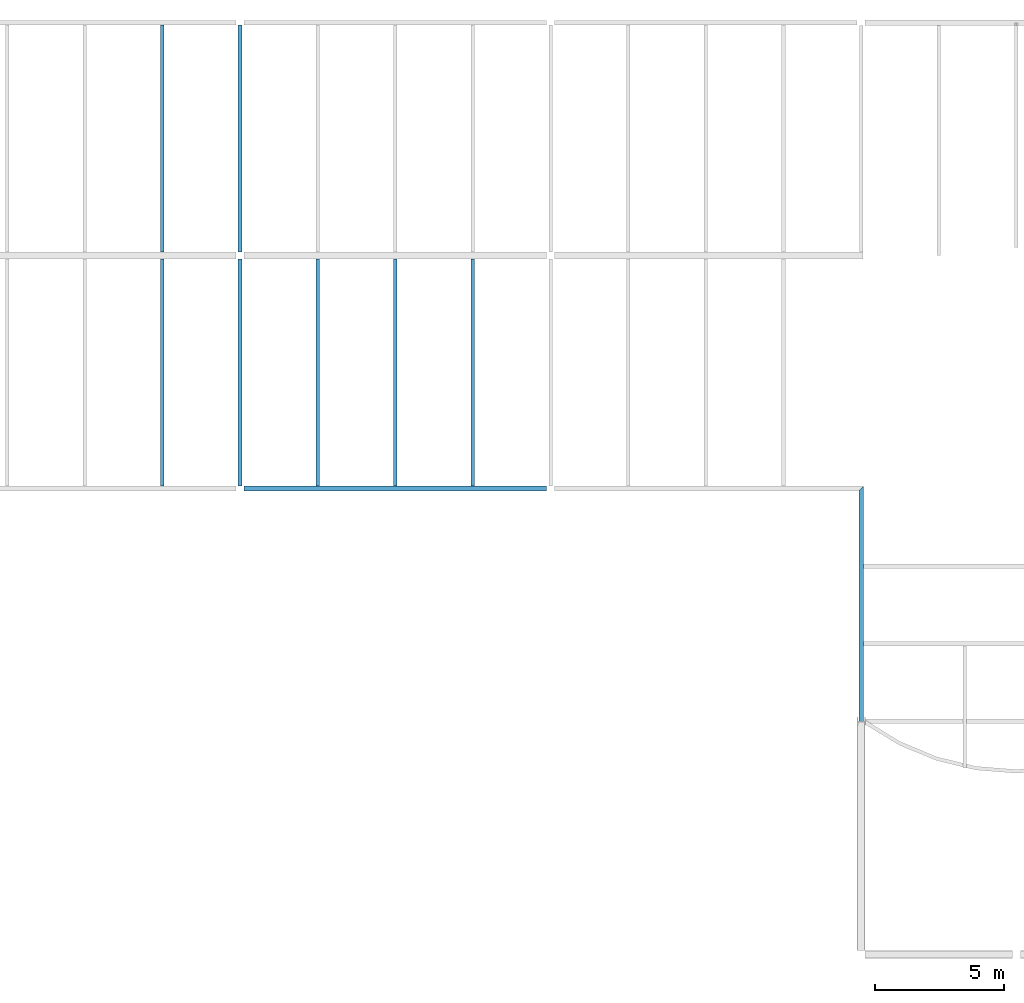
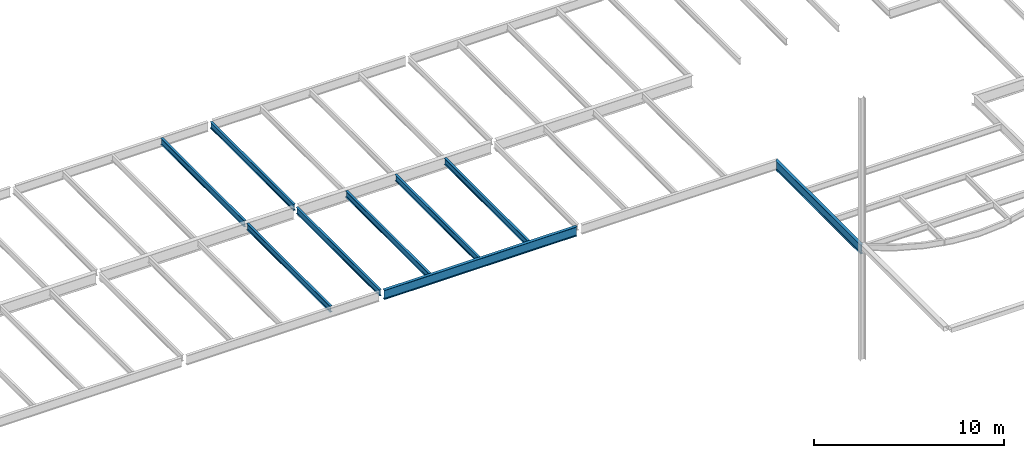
# One storey, part 5 of 21: 9 beams.
"""IFC2X3 building model written with IfcOpenShell, lengths in millimetres."""

from ifc_helpers import new_model, si_unit, origin, place, context, project, spatial, faceted_brep, material, element, save


model = new_model("IFC2X3")

# Units and contexts
context_of_model = context(None, 3, precision=1e-05, world=origin())
ifc_project = project(units=[si_unit("LENGTHUNIT", "METRE", prefix="MILLI")], contexts=[context_of_model])

# Building, storey
building = spatial("IfcBuilding", under=ifc_project, Name="Building", CompositionType="ELEMENT")
storey = spatial("IfcBuildingStorey", under=building, Name="FL6-FRM", CompositionType="ELEMENT")

# Beams
ifc_material_1 = material(Name="A992")
beam_1_placement = place(None, origin())
element("IfcBeam", 1, at=beam_1_placement, inside=storey, material=ifc_material_1, Name="B360", context=context_of_model, shape_type="Brep", body=[
    faceted_brep([(-27070.0, 35910.5, 21970.0), (-26930.0, 35910.5, 21970.0), (-26930.0, 27132.5, 21970.0), (-27070.0, 27132.5, 21970.0), (-26930.0, 35910.5, 21981.2), (-26930.0, 27132.5, 21981.2), (-26986.3, 35910.5, 21981.2), (-26986.3, 27132.5, 21981.2), (-26988.9, 35910.5, 21981.5), (-26988.9, 27132.5, 21981.5), (-26991.4, 35910.5, 21982.6), (-26991.4, 27132.5, 21982.6), (-26993.5, 35910.5, 21984.2), (-26993.5, 27132.5, 21984.2), (-26995.1, 35910.5, 21986.3), (-26995.1, 27132.5, 21986.3), (-26996.2, 35910.5, 21988.8), (-26996.2, 27132.5, 21988.8), (-26996.5, 35910.5, 21991.4), (-26996.5, 27132.5, 21991.4), (-26996.5, 35910.5, 22351.6), (-26996.5, 27132.5, 22351.6), (-26996.2, 35910.5, 22354.2), (-26996.2, 27132.5, 22354.2), (-26995.1, 35910.5, 22356.7), (-26995.1, 27132.5, 22356.7), (-26993.5, 35910.5, 22358.8), (-26993.5, 27132.5, 22358.8), (-26991.4, 35910.5, 22360.4), (-26991.4, 27132.5, 22360.4), (-26988.9, 35910.5, 22361.5), (-26988.9, 27132.5, 22361.5), (-26986.3, 35910.5, 22361.8), (-26986.3, 27132.5, 22361.8), (-26930.0, 35910.5, 22361.8), (-26930.0, 27132.5, 22361.8), (-26930.0, 35910.5, 22373.0), (-26930.0, 27132.5, 22373.0), (-27070.0, 35910.5, 22373.0), (-27070.0, 27132.5, 22373.0), (-27070.0, 35910.5, 22361.8), (-27070.0, 27132.5, 22361.8), (-27013.7, 35910.5, 22361.8), (-27013.7, 27132.5, 22361.8), (-27011.1, 35910.5, 22361.5), (-27011.1, 27132.5, 22361.5), (-27008.6, 35910.5, 22360.4), (-27008.6, 27132.5, 22360.4), (-27006.5, 35910.5, 22358.8), (-27006.5, 27132.5, 22358.8), (-27004.9, 35910.5, 22356.7), (-27004.9, 27132.5, 22356.7), (-27003.8, 35910.5, 22354.2), (-27003.8, 27132.5, 22354.2), (-27003.5, 35910.5, 22351.6), (-27003.5, 27132.5, 22351.6), (-27003.5, 35910.5, 21991.4), (-27003.5, 27132.5, 21991.4), (-27003.8, 35910.5, 21988.8), (-27003.8, 27132.5, 21988.8), (-27004.9, 35910.5, 21986.3), (-27004.9, 27132.5, 21986.3), (-27006.5, 35910.5, 21984.2), (-27006.5, 27132.5, 21984.2), (-27008.6, 35910.5, 21982.6), (-27008.6, 27132.5, 21982.6), (-27011.1, 35910.5, 21981.5), (-27011.1, 27132.5, 21981.5), (-27013.7, 35910.5, 21981.2), (-27013.7, 27132.5, 21981.2), (-27070.0, 35910.5, 21981.2), (-27070.0, 27132.5, 21981.2)], [[[0, 1, 2, 3]], [[1, 4, 5, 2]], [[4, 6, 7, 5]], [[6, 8, 9, 7]], [[8, 10, 11, 9]], [[10, 12, 13, 11]], [[12, 14, 15, 13]], [[14, 16, 17, 15]], [[16, 18, 19, 17]], [[18, 20, 21, 19]], [[20, 22, 23, 21]], [[22, 24, 25, 23]], [[24, 26, 27, 25]], [[26, 28, 29, 27]], [[28, 30, 31, 29]], [[30, 32, 33, 31]], [[32, 34, 35, 33]], [[34, 36, 37, 35]], [[36, 38, 39, 37]], [[38, 40, 41, 39]], [[40, 42, 43, 41]], [[42, 44, 45, 43]], [[44, 46, 47, 45]], [[46, 48, 49, 47]], [[48, 50, 51, 49]], [[50, 52, 53, 51]], [[52, 54, 55, 53]], [[54, 56, 57, 55]], [[56, 58, 59, 57]], [[58, 60, 61, 59]], [[60, 62, 63, 61]], [[62, 64, 65, 63]], [[64, 66, 67, 65]], [[66, 68, 69, 67]], [[68, 70, 71, 69]], [[70, 0, 3, 71]], [[0, 70, 68, 66, 64, 62, 60, 58, 56, 54, 52, 50, 48, 46, 44, 42, 40, 38, 36, 34, 32, 30, 28, 26, 24, 22, 20, 18, 16, 14, 12, 10, 8, 6, 4, 1]], [[3, 2, 5, 7, 9, 11, 13, 15, 17, 19, 21, 23, 25, 27, 29, 31, 33, 35, 37, 39, 41, 43, 45, 47, 49, 51, 53, 55, 57, 59, 61, 63, 65, 67, 69, 71]]]),
])
ifc_material_2 = material(Name="A992")
beam_2_placement = place(None, origin())
element("IfcBeam", 2, at=beam_2_placement, inside=storey, material=ifc_material_2, Name="B361", context=context_of_model, shape_type="Brep", body=[
    faceted_brep([(-24070.0, 35910.5, 21970.0), (-23930.0, 35910.5, 21970.0), (-23930.0, 27132.5, 21970.0), (-24070.0, 27132.5, 21970.0), (-23930.0, 35910.5, 21981.2), (-23930.0, 27132.5, 21981.2), (-23986.3, 35910.5, 21981.2), (-23986.3, 27132.5, 21981.2), (-23988.9, 35910.5, 21981.5), (-23988.9, 27132.5, 21981.5), (-23991.4, 35910.5, 21982.6), (-23991.4, 27132.5, 21982.6), (-23993.5, 35910.5, 21984.2), (-23993.5, 27132.5, 21984.2), (-23995.1, 35910.5, 21986.3), (-23995.1, 27132.5, 21986.3), (-23996.2, 35910.5, 21988.8), (-23996.2, 27132.5, 21988.8), (-23996.5, 35910.5, 21991.4), (-23996.5, 27132.5, 21991.4), (-23996.5, 35910.5, 22351.6), (-23996.5, 27132.5, 22351.6), (-23996.2, 35910.5, 22354.2), (-23996.2, 27132.5, 22354.2), (-23995.1, 35910.5, 22356.7), (-23995.1, 27132.5, 22356.7), (-23993.5, 35910.5, 22358.8), (-23993.5, 27132.5, 22358.8), (-23991.4, 35910.5, 22360.4), (-23991.4, 27132.5, 22360.4), (-23988.9, 35910.5, 22361.5), (-23988.9, 27132.5, 22361.5), (-23986.3, 35910.5, 22361.8), (-23986.3, 27132.5, 22361.8), (-23930.0, 35910.5, 22361.8), (-23930.0, 27132.5, 22361.8), (-23930.0, 35910.5, 22373.0), (-23930.0, 27132.5, 22373.0), (-24070.0, 35910.5, 22373.0), (-24070.0, 27132.5, 22373.0), (-24070.0, 35910.5, 22361.8), (-24070.0, 27132.5, 22361.8), (-24013.7, 35910.5, 22361.8), (-24013.7, 27132.5, 22361.8), (-24011.1, 35910.5, 22361.5), (-24011.1, 27132.5, 22361.5), (-24008.6, 35910.5, 22360.4), (-24008.6, 27132.5, 22360.4), (-24006.5, 35910.5, 22358.8), (-24006.5, 27132.5, 22358.8), (-24004.9, 35910.5, 22356.7), (-24004.9, 27132.5, 22356.7), (-24003.8, 35910.5, 22354.2), (-24003.8, 27132.5, 22354.2), (-24003.5, 35910.5, 22351.6), (-24003.5, 27132.5, 22351.6), (-24003.5, 35910.5, 21991.4), (-24003.5, 27132.5, 21991.4), (-24003.8, 35910.5, 21988.8), (-24003.8, 27132.5, 21988.8), (-24004.9, 35910.5, 21986.3), (-24004.9, 27132.5, 21986.3), (-24006.5, 35910.5, 21984.2), (-24006.5, 27132.5, 21984.2), (-24008.6, 35910.5, 21982.6), (-24008.6, 27132.5, 21982.6), (-24011.1, 35910.5, 21981.5), (-24011.1, 27132.5, 21981.5), (-24013.7, 35910.5, 21981.2), (-24013.7, 27132.5, 21981.2), (-24070.0, 35910.5, 21981.2), (-24070.0, 27132.5, 21981.2)], [[[0, 1, 2, 3]], [[1, 4, 5, 2]], [[4, 6, 7, 5]], [[6, 8, 9, 7]], [[8, 10, 11, 9]], [[10, 12, 13, 11]], [[12, 14, 15, 13]], [[14, 16, 17, 15]], [[16, 18, 19, 17]], [[18, 20, 21, 19]], [[20, 22, 23, 21]], [[22, 24, 25, 23]], [[24, 26, 27, 25]], [[26, 28, 29, 27]], [[28, 30, 31, 29]], [[30, 32, 33, 31]], [[32, 34, 35, 33]], [[34, 36, 37, 35]], [[36, 38, 39, 37]], [[38, 40, 41, 39]], [[40, 42, 43, 41]], [[42, 44, 45, 43]], [[44, 46, 47, 45]], [[46, 48, 49, 47]], [[48, 50, 51, 49]], [[50, 52, 53, 51]], [[52, 54, 55, 53]], [[54, 56, 57, 55]], [[56, 58, 59, 57]], [[58, 60, 61, 59]], [[60, 62, 63, 61]], [[62, 64, 65, 63]], [[64, 66, 67, 65]], [[66, 68, 69, 67]], [[68, 70, 71, 69]], [[70, 0, 3, 71]], [[0, 70, 68, 66, 64, 62, 60, 58, 56, 54, 52, 50, 48, 46, 44, 42, 40, 38, 36, 34, 32, 30, 28, 26, 24, 22, 20, 18, 16, 14, 12, 10, 8, 6, 4, 1]], [[3, 2, 5, 7, 9, 11, 13, 15, 17, 19, 21, 23, 25, 27, 29, 31, 33, 35, 37, 39, 41, 43, 45, 47, 49, 51, 53, 55, 57, 59, 61, 63, 65, 67, 69, 71]]]),
])
ifc_material_3 = material(Name="A992")
beam_3_placement = place(None, origin())
element("IfcBeam", 3, at=beam_3_placement, inside=storey, material=ifc_material_3, Name="Column449", context=context_of_model, shape_type="Brep", body=[
    faceted_brep([(-23847.0, 17910.5, 21770.0), (-23847.0, 18089.5, 21770.0), (-12153.0, 18089.5, 21770.0), (-12153.0, 17910.5, 21770.0), (-23847.0, 18089.5, 21785.0), (-12153.0, 18089.5, 21785.0), (-23847.0, 18020.6, 21785.0), (-12153.0, 18020.6, 21785.0), (-23847.0, 18016.7, 21785.5), (-12153.0, 18016.7, 21785.5), (-23847.0, 18013.0, 21787.0), (-12153.0, 18013.0, 21787.0), (-23847.0, 18009.9, 21789.5), (-12153.0, 18009.9, 21789.5), (-23847.0, 18007.5, 21792.6), (-12153.0, 18007.5, 21792.6), (-23847.0, 18006.0, 21796.3), (-12153.0, 18006.0, 21796.3), (-23847.0, 18005.4, 21800.2), (-12153.0, 18005.4, 21800.2), (-23847.0, 18005.4, 22342.8), (-12153.0, 18005.4, 22342.8), (-23847.0, 18006.0, 22346.7), (-12153.0, 18006.0, 22346.7), (-23847.0, 18007.5, 22350.4), (-12153.0, 18007.5, 22350.4), (-23847.0, 18009.9, 22353.5), (-12153.0, 18009.9, 22353.5), (-23847.0, 18013.0, 22356.0), (-12153.0, 18013.0, 22356.0), (-23847.0, 18016.7, 22357.5), (-12153.0, 18016.7, 22357.5), (-23847.0, 18020.6, 22358.0), (-12153.0, 18020.6, 22358.0), (-23847.0, 18089.5, 22358.0), (-12153.0, 18089.5, 22358.0), (-23847.0, 18089.5, 22373.0), (-12153.0, 18089.5, 22373.0), (-23847.0, 17910.5, 22373.0), (-12153.0, 17910.5, 22373.0), (-23847.0, 17910.5, 22358.0), (-12153.0, 17910.5, 22358.0), (-23847.0, 17979.4, 22358.0), (-12153.0, 17979.4, 22358.0), (-23847.0, 17983.3, 22357.5), (-12153.0, 17983.3, 22357.5), (-23847.0, 17987.0, 22356.0), (-12153.0, 17987.0, 22356.0), (-23847.0, 17990.1, 22353.5), (-12153.0, 17990.1, 22353.5), (-23847.0, 17992.5, 22350.4), (-12153.0, 17992.5, 22350.4), (-23847.0, 17994.0, 22346.7), (-12153.0, 17994.0, 22346.7), (-23847.0, 17994.6, 22342.8), (-12153.0, 17994.6, 22342.8), (-23847.0, 17994.6, 21800.2), (-12153.0, 17994.6, 21800.2), (-23847.0, 17994.0, 21796.3), (-12153.0, 17994.0, 21796.3), (-23847.0, 17992.5, 21792.6), (-12153.0, 17992.5, 21792.6), (-23847.0, 17990.1, 21789.5), (-12153.0, 17990.1, 21789.5), (-23847.0, 17987.0, 21787.0), (-12153.0, 17987.0, 21787.0), (-23847.0, 17983.3, 21785.5), (-12153.0, 17983.3, 21785.5), (-23847.0, 17979.4, 21785.0), (-12153.0, 17979.4, 21785.0), (-23847.0, 17910.5, 21785.0), (-12153.0, 17910.5, 21785.0)], [[[0, 1, 2, 3]], [[1, 4, 5, 2]], [[4, 6, 7, 5]], [[6, 8, 9, 7]], [[8, 10, 11, 9]], [[10, 12, 13, 11]], [[12, 14, 15, 13]], [[14, 16, 17, 15]], [[16, 18, 19, 17]], [[18, 20, 21, 19]], [[20, 22, 23, 21]], [[22, 24, 25, 23]], [[24, 26, 27, 25]], [[26, 28, 29, 27]], [[28, 30, 31, 29]], [[30, 32, 33, 31]], [[32, 34, 35, 33]], [[34, 36, 37, 35]], [[36, 38, 39, 37]], [[38, 40, 41, 39]], [[40, 42, 43, 41]], [[42, 44, 45, 43]], [[44, 46, 47, 45]], [[46, 48, 49, 47]], [[48, 50, 51, 49]], [[50, 52, 53, 51]], [[52, 54, 55, 53]], [[54, 56, 57, 55]], [[56, 58, 59, 57]], [[58, 60, 61, 59]], [[60, 62, 63, 61]], [[62, 64, 65, 63]], [[64, 66, 67, 65]], [[66, 68, 69, 67]], [[68, 70, 71, 69]], [[70, 0, 3, 71]], [[0, 70, 68, 66, 64, 62, 60, 58, 56, 54, 52, 50, 48, 46, 44, 42, 40, 38, 36, 34, 32, 30, 28, 26, 24, 22, 20, 18, 16, 14, 12, 10, 8, 6, 4, 1]], [[3, 2, 5, 7, 9, 11, 13, 15, 17, 19, 21, 23, 25, 27, 29, 31, 33, 35, 37, 39, 41, 43, 45, 47, 49, 51, 53, 55, 57, 59, 61, 63, 65, 67, 69, 71]]]),
])
ifc_material_4 = material(Name="A992")
beam_4_placement = place(None, origin())
element("IfcBeam", 4, at=beam_4_placement, inside=storey, material=ifc_material_4, Name="B381", context=context_of_model, shape_type="Brep", body=[
    faceted_brep([(-14930.0, 18089.5, 21970.0), (-15070.0, 18089.5, 21970.0), (-15070.0, 26867.5, 21970.0), (-14930.0, 26867.5, 21970.0), (-15070.0, 18089.5, 21981.2), (-15070.0, 26867.5, 21981.2), (-15013.7, 18089.5, 21981.2), (-15013.7, 26867.5, 21981.2), (-15011.1, 18089.5, 21981.5), (-15011.1, 26867.5, 21981.5), (-15008.6, 18089.5, 21982.6), (-15008.6, 26867.5, 21982.6), (-15006.5, 18089.5, 21984.2), (-15006.5, 26867.5, 21984.2), (-15004.9, 18089.5, 21986.3), (-15004.9, 26867.5, 21986.3), (-15003.8, 18089.5, 21988.8), (-15003.8, 26867.5, 21988.8), (-15003.5, 18089.5, 21991.4), (-15003.5, 26867.5, 21991.4), (-15003.5, 18089.5, 22351.6), (-15003.5, 26867.5, 22351.6), (-15003.8, 18089.5, 22354.2), (-15003.8, 26867.5, 22354.2), (-15004.9, 18089.5, 22356.7), (-15004.9, 26867.5, 22356.7), (-15006.5, 18089.5, 22358.8), (-15006.5, 26867.5, 22358.8), (-15008.6, 18089.5, 22360.4), (-15008.6, 26867.5, 22360.4), (-15011.1, 18089.5, 22361.5), (-15011.1, 26867.5, 22361.5), (-15013.7, 18089.5, 22361.8), (-15013.7, 26867.5, 22361.8), (-15070.0, 18089.5, 22361.8), (-15070.0, 26867.5, 22361.8), (-15070.0, 18089.5, 22373.0), (-15070.0, 26867.5, 22373.0), (-14930.0, 18089.5, 22373.0), (-14930.0, 26867.5, 22373.0), (-14930.0, 18089.5, 22361.8), (-14930.0, 26867.5, 22361.8), (-14986.3, 18089.5, 22361.8), (-14986.3, 26867.5, 22361.8), (-14988.9, 18089.5, 22361.5), (-14988.9, 26867.5, 22361.5), (-14991.4, 18089.5, 22360.4), (-14991.4, 26867.5, 22360.4), (-14993.5, 18089.5, 22358.8), (-14993.5, 26867.5, 22358.8), (-14995.1, 18089.5, 22356.7), (-14995.1, 26867.5, 22356.7), (-14996.2, 18089.5, 22354.2), (-14996.2, 26867.5, 22354.2), (-14996.5, 18089.5, 22351.6), (-14996.5, 26867.5, 22351.6), (-14996.5, 18089.5, 21991.4), (-14996.5, 26867.5, 21991.4), (-14996.2, 18089.5, 21988.8), (-14996.2, 26867.5, 21988.8), (-14995.1, 18089.5, 21986.3), (-14995.1, 26867.5, 21986.3), (-14993.5, 18089.5, 21984.2), (-14993.5, 26867.5, 21984.2), (-14991.4, 18089.5, 21982.6), (-14991.4, 26867.5, 21982.6), (-14988.9, 18089.5, 21981.5), (-14988.9, 26867.5, 21981.5), (-14986.3, 18089.5, 21981.2), (-14986.3, 26867.5, 21981.2), (-14930.0, 18089.5, 21981.2), (-14930.0, 26867.5, 21981.2)], [[[0, 1, 2, 3]], [[1, 4, 5, 2]], [[4, 6, 7, 5]], [[6, 8, 9, 7]], [[8, 10, 11, 9]], [[10, 12, 13, 11]], [[12, 14, 15, 13]], [[14, 16, 17, 15]], [[16, 18, 19, 17]], [[18, 20, 21, 19]], [[20, 22, 23, 21]], [[22, 24, 25, 23]], [[24, 26, 27, 25]], [[26, 28, 29, 27]], [[28, 30, 31, 29]], [[30, 32, 33, 31]], [[32, 34, 35, 33]], [[34, 36, 37, 35]], [[36, 38, 39, 37]], [[38, 40, 41, 39]], [[40, 42, 43, 41]], [[42, 44, 45, 43]], [[44, 46, 47, 45]], [[46, 48, 49, 47]], [[48, 50, 51, 49]], [[50, 52, 53, 51]], [[52, 54, 55, 53]], [[54, 56, 57, 55]], [[56, 58, 59, 57]], [[58, 60, 61, 59]], [[60, 62, 63, 61]], [[62, 64, 65, 63]], [[64, 66, 67, 65]], [[66, 68, 69, 67]], [[68, 70, 71, 69]], [[70, 0, 3, 71]], [[0, 70, 68, 66, 64, 62, 60, 58, 56, 54, 52, 50, 48, 46, 44, 42, 40, 38, 36, 34, 32, 30, 28, 26, 24, 22, 20, 18, 16, 14, 12, 10, 8, 6, 4, 1]], [[3, 2, 5, 7, 9, 11, 13, 15, 17, 19, 21, 23, 25, 27, 29, 31, 33, 35, 37, 39, 41, 43, 45, 47, 49, 51, 53, 55, 57, 59, 61, 63, 65, 67, 69, 71]]]),
])
ifc_material_5 = material(Name="A992")
beam_5_placement = place(None, origin())
element("IfcBeam", 5, at=beam_5_placement, inside=storey, material=ifc_material_5, Name="B382", context=context_of_model, shape_type="Brep", body=[
    faceted_brep([(-17930.0, 18089.5, 21970.0), (-18070.0, 18089.5, 21970.0), (-18070.0, 26867.5, 21970.0), (-17930.0, 26867.5, 21970.0), (-18070.0, 18089.5, 21981.2), (-18070.0, 26867.5, 21981.2), (-18013.7, 18089.5, 21981.2), (-18013.7, 26867.5, 21981.2), (-18011.1, 18089.5, 21981.5), (-18011.1, 26867.5, 21981.5), (-18008.6, 18089.5, 21982.6), (-18008.6, 26867.5, 21982.6), (-18006.5, 18089.5, 21984.2), (-18006.5, 26867.5, 21984.2), (-18004.9, 18089.5, 21986.3), (-18004.9, 26867.5, 21986.3), (-18003.8, 18089.5, 21988.8), (-18003.8, 26867.5, 21988.8), (-18003.5, 18089.5, 21991.4), (-18003.5, 26867.5, 21991.4), (-18003.5, 18089.5, 22351.6), (-18003.5, 26867.5, 22351.6), (-18003.8, 18089.5, 22354.2), (-18003.8, 26867.5, 22354.2), (-18004.9, 18089.5, 22356.7), (-18004.9, 26867.5, 22356.7), (-18006.5, 18089.5, 22358.8), (-18006.5, 26867.5, 22358.8), (-18008.6, 18089.5, 22360.4), (-18008.6, 26867.5, 22360.4), (-18011.1, 18089.5, 22361.5), (-18011.1, 26867.5, 22361.5), (-18013.7, 18089.5, 22361.8), (-18013.7, 26867.5, 22361.8), (-18070.0, 18089.5, 22361.8), (-18070.0, 26867.5, 22361.8), (-18070.0, 18089.5, 22373.0), (-18070.0, 26867.5, 22373.0), (-17930.0, 18089.5, 22373.0), (-17930.0, 26867.5, 22373.0), (-17930.0, 18089.5, 22361.8), (-17930.0, 26867.5, 22361.8), (-17986.3, 18089.5, 22361.8), (-17986.3, 26867.5, 22361.8), (-17988.9, 18089.5, 22361.5), (-17988.9, 26867.5, 22361.5), (-17991.4, 18089.5, 22360.4), (-17991.4, 26867.5, 22360.4), (-17993.5, 18089.5, 22358.8), (-17993.5, 26867.5, 22358.8), (-17995.1, 18089.5, 22356.7), (-17995.1, 26867.5, 22356.7), (-17996.2, 18089.5, 22354.2), (-17996.2, 26867.5, 22354.2), (-17996.5, 18089.5, 22351.6), (-17996.5, 26867.5, 22351.6), (-17996.5, 18089.5, 21991.4), (-17996.5, 26867.5, 21991.4), (-17996.2, 18089.5, 21988.8), (-17996.2, 26867.5, 21988.8), (-17995.1, 18089.5, 21986.3), (-17995.1, 26867.5, 21986.3), (-17993.5, 18089.5, 21984.2), (-17993.5, 26867.5, 21984.2), (-17991.4, 18089.5, 21982.6), (-17991.4, 26867.5, 21982.6), (-17988.9, 18089.5, 21981.5), (-17988.9, 26867.5, 21981.5), (-17986.3, 18089.5, 21981.2), (-17986.3, 26867.5, 21981.2), (-17930.0, 18089.5, 21981.2), (-17930.0, 26867.5, 21981.2)], [[[0, 1, 2, 3]], [[1, 4, 5, 2]], [[4, 6, 7, 5]], [[6, 8, 9, 7]], [[8, 10, 11, 9]], [[10, 12, 13, 11]], [[12, 14, 15, 13]], [[14, 16, 17, 15]], [[16, 18, 19, 17]], [[18, 20, 21, 19]], [[20, 22, 23, 21]], [[22, 24, 25, 23]], [[24, 26, 27, 25]], [[26, 28, 29, 27]], [[28, 30, 31, 29]], [[30, 32, 33, 31]], [[32, 34, 35, 33]], [[34, 36, 37, 35]], [[36, 38, 39, 37]], [[38, 40, 41, 39]], [[40, 42, 43, 41]], [[42, 44, 45, 43]], [[44, 46, 47, 45]], [[46, 48, 49, 47]], [[48, 50, 51, 49]], [[50, 52, 53, 51]], [[52, 54, 55, 53]], [[54, 56, 57, 55]], [[56, 58, 59, 57]], [[58, 60, 61, 59]], [[60, 62, 63, 61]], [[62, 64, 65, 63]], [[64, 66, 67, 65]], [[66, 68, 69, 67]], [[68, 70, 71, 69]], [[70, 0, 3, 71]], [[0, 70, 68, 66, 64, 62, 60, 58, 56, 54, 52, 50, 48, 46, 44, 42, 40, 38, 36, 34, 32, 30, 28, 26, 24, 22, 20, 18, 16, 14, 12, 10, 8, 6, 4, 1]], [[3, 2, 5, 7, 9, 11, 13, 15, 17, 19, 21, 23, 25, 27, 29, 31, 33, 35, 37, 39, 41, 43, 45, 47, 49, 51, 53, 55, 57, 59, 61, 63, 65, 67, 69, 71]]]),
])
ifc_material_6 = material(Name="A992")
beam_6_placement = place(None, origin())
element("IfcBeam", 6, at=beam_6_placement, inside=storey, material=ifc_material_6, Name="B383", context=context_of_model, shape_type="Brep", body=[
    faceted_brep([(-20930.0, 18089.5, 21970.0), (-21070.0, 18089.5, 21970.0), (-21070.0, 26867.5, 21970.0), (-20930.0, 26867.5, 21970.0), (-21070.0, 18089.5, 21981.2), (-21070.0, 26867.5, 21981.2), (-21013.7, 18089.5, 21981.2), (-21013.7, 26867.5, 21981.2), (-21011.1, 18089.5, 21981.5), (-21011.1, 26867.5, 21981.5), (-21008.6, 18089.5, 21982.6), (-21008.6, 26867.5, 21982.6), (-21006.5, 18089.5, 21984.2), (-21006.5, 26867.5, 21984.2), (-21004.9, 18089.5, 21986.3), (-21004.9, 26867.5, 21986.3), (-21003.8, 18089.5, 21988.8), (-21003.8, 26867.5, 21988.8), (-21003.5, 18089.5, 21991.4), (-21003.5, 26867.5, 21991.4), (-21003.5, 18089.5, 22351.6), (-21003.5, 26867.5, 22351.6), (-21003.8, 18089.5, 22354.2), (-21003.8, 26867.5, 22354.2), (-21004.9, 18089.5, 22356.7), (-21004.9, 26867.5, 22356.7), (-21006.5, 18089.5, 22358.8), (-21006.5, 26867.5, 22358.8), (-21008.6, 18089.5, 22360.4), (-21008.6, 26867.5, 22360.4), (-21011.1, 18089.5, 22361.5), (-21011.1, 26867.5, 22361.5), (-21013.7, 18089.5, 22361.8), (-21013.7, 26867.5, 22361.8), (-21070.0, 18089.5, 22361.8), (-21070.0, 26867.5, 22361.8), (-21070.0, 18089.5, 22373.0), (-21070.0, 26867.5, 22373.0), (-20930.0, 18089.5, 22373.0), (-20930.0, 26867.5, 22373.0), (-20930.0, 18089.5, 22361.8), (-20930.0, 26867.5, 22361.8), (-20986.3, 18089.5, 22361.8), (-20986.3, 26867.5, 22361.8), (-20988.9, 18089.5, 22361.5), (-20988.9, 26867.5, 22361.5), (-20991.4, 18089.5, 22360.4), (-20991.4, 26867.5, 22360.4), (-20993.5, 18089.5, 22358.8), (-20993.5, 26867.5, 22358.8), (-20995.1, 18089.5, 22356.7), (-20995.1, 26867.5, 22356.7), (-20996.2, 18089.5, 22354.2), (-20996.2, 26867.5, 22354.2), (-20996.5, 18089.5, 22351.6), (-20996.5, 26867.5, 22351.6), (-20996.5, 18089.5, 21991.4), (-20996.5, 26867.5, 21991.4), (-20996.2, 18089.5, 21988.8), (-20996.2, 26867.5, 21988.8), (-20995.1, 18089.5, 21986.3), (-20995.1, 26867.5, 21986.3), (-20993.5, 18089.5, 21984.2), (-20993.5, 26867.5, 21984.2), (-20991.4, 18089.5, 21982.6), (-20991.4, 26867.5, 21982.6), (-20988.9, 18089.5, 21981.5), (-20988.9, 26867.5, 21981.5), (-20986.3, 18089.5, 21981.2), (-20986.3, 26867.5, 21981.2), (-20930.0, 18089.5, 21981.2), (-20930.0, 26867.5, 21981.2)], [[[0, 1, 2, 3]], [[1, 4, 5, 2]], [[4, 6, 7, 5]], [[6, 8, 9, 7]], [[8, 10, 11, 9]], [[10, 12, 13, 11]], [[12, 14, 15, 13]], [[14, 16, 17, 15]], [[16, 18, 19, 17]], [[18, 20, 21, 19]], [[20, 22, 23, 21]], [[22, 24, 25, 23]], [[24, 26, 27, 25]], [[26, 28, 29, 27]], [[28, 30, 31, 29]], [[30, 32, 33, 31]], [[32, 34, 35, 33]], [[34, 36, 37, 35]], [[36, 38, 39, 37]], [[38, 40, 41, 39]], [[40, 42, 43, 41]], [[42, 44, 45, 43]], [[44, 46, 47, 45]], [[46, 48, 49, 47]], [[48, 50, 51, 49]], [[50, 52, 53, 51]], [[52, 54, 55, 53]], [[54, 56, 57, 55]], [[56, 58, 59, 57]], [[58, 60, 61, 59]], [[60, 62, 63, 61]], [[62, 64, 65, 63]], [[64, 66, 67, 65]], [[66, 68, 69, 67]], [[68, 70, 71, 69]], [[70, 0, 3, 71]], [[0, 70, 68, 66, 64, 62, 60, 58, 56, 54, 52, 50, 48, 46, 44, 42, 40, 38, 36, 34, 32, 30, 28, 26, 24, 22, 20, 18, 16, 14, 12, 10, 8, 6, 4, 1]], [[3, 2, 5, 7, 9, 11, 13, 15, 17, 19, 21, 23, 25, 27, 29, 31, 33, 35, 37, 39, 41, 43, 45, 47, 49, 51, 53, 55, 57, 59, 61, 63, 65, 67, 69, 71]]]),
])
ifc_material_7 = material(Name="A992")
beam_7_placement = place(None, origin())
element("IfcBeam", 7, at=beam_7_placement, inside=storey, material=ifc_material_7, Name="B384", context=context_of_model, shape_type="Brep", body=[
    faceted_brep([(-23930.0, 18089.5, 21970.0), (-24070.0, 18089.5, 21970.0), (-24070.0, 26867.5, 21970.0), (-23930.0, 26867.5, 21970.0), (-24070.0, 18089.5, 21981.2), (-24070.0, 26867.5, 21981.2), (-24013.7, 18089.5, 21981.2), (-24013.7, 26867.5, 21981.2), (-24011.1, 18089.5, 21981.5), (-24011.1, 26867.5, 21981.5), (-24008.6, 18089.5, 21982.6), (-24008.6, 26867.5, 21982.6), (-24006.5, 18089.5, 21984.2), (-24006.5, 26867.5, 21984.2), (-24004.9, 18089.5, 21986.3), (-24004.9, 26867.5, 21986.3), (-24003.8, 18089.5, 21988.8), (-24003.8, 26867.5, 21988.8), (-24003.5, 18089.5, 21991.4), (-24003.5, 26867.5, 21991.4), (-24003.5, 18089.5, 22351.6), (-24003.5, 26867.5, 22351.6), (-24003.8, 18089.5, 22354.2), (-24003.8, 26867.5, 22354.2), (-24004.9, 18089.5, 22356.7), (-24004.9, 26867.5, 22356.7), (-24006.5, 18089.5, 22358.8), (-24006.5, 26867.5, 22358.8), (-24008.6, 18089.5, 22360.4), (-24008.6, 26867.5, 22360.4), (-24011.1, 18089.5, 22361.5), (-24011.1, 26867.5, 22361.5), (-24013.7, 18089.5, 22361.8), (-24013.7, 26867.5, 22361.8), (-24070.0, 18089.5, 22361.8), (-24070.0, 26867.5, 22361.8), (-24070.0, 18089.5, 22373.0), (-24070.0, 26867.5, 22373.0), (-23930.0, 18089.5, 22373.0), (-23930.0, 26867.5, 22373.0), (-23930.0, 18089.5, 22361.8), (-23930.0, 26867.5, 22361.8), (-23986.3, 18089.5, 22361.8), (-23986.3, 26867.5, 22361.8), (-23988.9, 18089.5, 22361.5), (-23988.9, 26867.5, 22361.5), (-23991.4, 18089.5, 22360.4), (-23991.4, 26867.5, 22360.4), (-23993.5, 18089.5, 22358.8), (-23993.5, 26867.5, 22358.8), (-23995.1, 18089.5, 22356.7), (-23995.1, 26867.5, 22356.7), (-23996.2, 18089.5, 22354.2), (-23996.2, 26867.5, 22354.2), (-23996.5, 18089.5, 22351.6), (-23996.5, 26867.5, 22351.6), (-23996.5, 18089.5, 21991.4), (-23996.5, 26867.5, 21991.4), (-23996.2, 18089.5, 21988.8), (-23996.2, 26867.5, 21988.8), (-23995.1, 18089.5, 21986.3), (-23995.1, 26867.5, 21986.3), (-23993.5, 18089.5, 21984.2), (-23993.5, 26867.5, 21984.2), (-23991.4, 18089.5, 21982.6), (-23991.4, 26867.5, 21982.6), (-23988.9, 18089.5, 21981.5), (-23988.9, 26867.5, 21981.5), (-23986.3, 18089.5, 21981.2), (-23986.3, 26867.5, 21981.2), (-23930.0, 18089.5, 21981.2), (-23930.0, 26867.5, 21981.2)], [[[0, 1, 2, 3]], [[1, 4, 5, 2]], [[4, 6, 7, 5]], [[6, 8, 9, 7]], [[8, 10, 11, 9]], [[10, 12, 13, 11]], [[12, 14, 15, 13]], [[14, 16, 17, 15]], [[16, 18, 19, 17]], [[18, 20, 21, 19]], [[20, 22, 23, 21]], [[22, 24, 25, 23]], [[24, 26, 27, 25]], [[26, 28, 29, 27]], [[28, 30, 31, 29]], [[30, 32, 33, 31]], [[32, 34, 35, 33]], [[34, 36, 37, 35]], [[36, 38, 39, 37]], [[38, 40, 41, 39]], [[40, 42, 43, 41]], [[42, 44, 45, 43]], [[44, 46, 47, 45]], [[46, 48, 49, 47]], [[48, 50, 51, 49]], [[50, 52, 53, 51]], [[52, 54, 55, 53]], [[54, 56, 57, 55]], [[56, 58, 59, 57]], [[58, 60, 61, 59]], [[60, 62, 63, 61]], [[62, 64, 65, 63]], [[64, 66, 67, 65]], [[66, 68, 69, 67]], [[68, 70, 71, 69]], [[70, 0, 3, 71]], [[0, 70, 68, 66, 64, 62, 60, 58, 56, 54, 52, 50, 48, 46, 44, 42, 40, 38, 36, 34, 32, 30, 28, 26, 24, 22, 20, 18, 16, 14, 12, 10, 8, 6, 4, 1]], [[3, 2, 5, 7, 9, 11, 13, 15, 17, 19, 21, 23, 25, 27, 29, 31, 33, 35, 37, 39, 41, 43, 45, 47, 49, 51, 53, 55, 57, 59, 61, 63, 65, 67, 69, 71]]]),
])
ifc_material_8 = material(Name="A992")
beam_8_placement = place(None, origin())
element("IfcBeam", 8, at=beam_8_placement, inside=storey, material=ifc_material_8, Name="B385", context=context_of_model, shape_type="Brep", body=[
    faceted_brep([(-26930.0, 18089.5, 21970.0), (-27070.0, 18089.5, 21970.0), (-27070.0, 26867.5, 21970.0), (-26930.0, 26867.5, 21970.0), (-27070.0, 18089.5, 21981.2), (-27070.0, 26867.5, 21981.2), (-27013.7, 18089.5, 21981.2), (-27013.7, 26867.5, 21981.2), (-27011.1, 18089.5, 21981.5), (-27011.1, 26867.5, 21981.5), (-27008.6, 18089.5, 21982.6), (-27008.6, 26867.5, 21982.6), (-27006.5, 18089.5, 21984.2), (-27006.5, 26867.5, 21984.2), (-27004.9, 18089.5, 21986.3), (-27004.9, 26867.5, 21986.3), (-27003.8, 18089.5, 21988.8), (-27003.8, 26867.5, 21988.8), (-27003.5, 18089.5, 21991.4), (-27003.5, 26867.5, 21991.4), (-27003.5, 18089.5, 22351.6), (-27003.5, 26867.5, 22351.6), (-27003.8, 18089.5, 22354.2), (-27003.8, 26867.5, 22354.2), (-27004.9, 18089.5, 22356.7), (-27004.9, 26867.5, 22356.7), (-27006.5, 18089.5, 22358.8), (-27006.5, 26867.5, 22358.8), (-27008.6, 18089.5, 22360.4), (-27008.6, 26867.5, 22360.4), (-27011.1, 18089.5, 22361.5), (-27011.1, 26867.5, 22361.5), (-27013.7, 18089.5, 22361.8), (-27013.7, 26867.5, 22361.8), (-27070.0, 18089.5, 22361.8), (-27070.0, 26867.5, 22361.8), (-27070.0, 18089.5, 22373.0), (-27070.0, 26867.5, 22373.0), (-26930.0, 18089.5, 22373.0), (-26930.0, 26867.5, 22373.0), (-26930.0, 18089.5, 22361.8), (-26930.0, 26867.5, 22361.8), (-26986.3, 18089.5, 22361.8), (-26986.3, 26867.5, 22361.8), (-26988.9, 18089.5, 22361.5), (-26988.9, 26867.5, 22361.5), (-26991.4, 18089.5, 22360.4), (-26991.4, 26867.5, 22360.4), (-26993.5, 18089.5, 22358.8), (-26993.5, 26867.5, 22358.8), (-26995.1, 18089.5, 22356.7), (-26995.1, 26867.5, 22356.7), (-26996.2, 18089.5, 22354.2), (-26996.2, 26867.5, 22354.2), (-26996.5, 18089.5, 22351.6), (-26996.5, 26867.5, 22351.6), (-26996.5, 18089.5, 21991.4), (-26996.5, 26867.5, 21991.4), (-26996.2, 18089.5, 21988.8), (-26996.2, 26867.5, 21988.8), (-26995.1, 18089.5, 21986.3), (-26995.1, 26867.5, 21986.3), (-26993.5, 18089.5, 21984.2), (-26993.5, 26867.5, 21984.2), (-26991.4, 18089.5, 21982.6), (-26991.4, 26867.5, 21982.6), (-26988.9, 18089.5, 21981.5), (-26988.9, 26867.5, 21981.5), (-26986.3, 18089.5, 21981.2), (-26986.3, 26867.5, 21981.2), (-26930.0, 18089.5, 21981.2), (-26930.0, 26867.5, 21981.2)], [[[0, 1, 2, 3]], [[1, 4, 5, 2]], [[4, 6, 7, 5]], [[6, 8, 9, 7]], [[8, 10, 11, 9]], [[10, 12, 13, 11]], [[12, 14, 15, 13]], [[14, 16, 17, 15]], [[16, 18, 19, 17]], [[18, 20, 21, 19]], [[20, 22, 23, 21]], [[22, 24, 25, 23]], [[24, 26, 27, 25]], [[26, 28, 29, 27]], [[28, 30, 31, 29]], [[30, 32, 33, 31]], [[32, 34, 35, 33]], [[34, 36, 37, 35]], [[36, 38, 39, 37]], [[38, 40, 41, 39]], [[40, 42, 43, 41]], [[42, 44, 45, 43]], [[44, 46, 47, 45]], [[46, 48, 49, 47]], [[48, 50, 51, 49]], [[50, 52, 53, 51]], [[52, 54, 55, 53]], [[54, 56, 57, 55]], [[56, 58, 59, 57]], [[58, 60, 61, 59]], [[60, 62, 63, 61]], [[62, 64, 65, 63]], [[64, 66, 67, 65]], [[66, 68, 69, 67]], [[68, 70, 71, 69]], [[70, 0, 3, 71]], [[0, 70, 68, 66, 64, 62, 60, 58, 56, 54, 52, 50, 48, 46, 44, 42, 40, 38, 36, 34, 32, 30, 28, 26, 24, 22, 20, 18, 16, 14, 12, 10, 8, 6, 4, 1]], [[3, 2, 5, 7, 9, 11, 13, 15, 17, 19, 21, 23, 25, 27, 29, 31, 33, 35, 37, 39, 41, 43, 45, 47, 49, 51, 53, 55, 57, 59, 61, 63, 65, 67, 69, 71]]]),
])
ifc_material_9 = material(Name="A992")
beam_9_placement = place(None, origin())
element("IfcBeam", 9, at=beam_9_placement, inside=storey, material=ifc_material_9, Name="B1182", context=context_of_model, shape_type="Brep", body=[
    faceted_brep([(-89.5, 17910.5, 21770.0), (89.5, 18089.5, 21770.0), (89.5, 9004.95, 21770.0), (-89.5, 9004.95, 21770.0), (89.5, 18089.5, 21785.0), (89.5, 9004.95, 21785.0), (20.65, 18020.6, 21785.0), (20.65, 9004.95, 21785.0), (18.5082, 18018.5, 21785.1), (18.487, 9004.95, 21785.2), (16.3899, 18016.4, 21785.6), (16.3678, 9004.95, 21785.6), (14.3575, 18014.4, 21786.4), (14.3357, 9004.95, 21786.4), (12.4895, 18012.5, 21787.4), (12.4328, 9004.95, 21787.4), (10.7252, 18010.7, 21788.7), (10.6963, 9004.95, 21788.7), (9.20544, 18009.2, 21790.2), (9.16288, 9004.95, 21790.2), (7.90755, 18007.9, 21791.9), (7.86372, 9004.95, 21792.0), (6.82926, 18006.8, 21793.8), (6.82368, 9004.95, 21793.9), (6.10793, 18006.1, 21795.9), (6.06628, 9004.95, 21795.9), (5.65323, 18005.7, 21798.0), (5.6055, 9004.95, 21798.0), (5.45, 18005.4, 21800.2), (5.45, 9004.95, 21800.2), (5.45, 18005.4, 22342.8), (5.45, 9004.95, 22342.8), (5.65323, 18005.7, 22345.0), (5.6055, 9004.95, 22345.0), (6.10793, 18006.1, 22347.1), (6.06628, 9004.95, 22347.1), (6.82926, 18006.8, 22349.2), (6.82368, 9004.95, 22349.1), (7.90755, 18007.9, 22351.1), (7.86372, 9004.95, 22351.0), (9.20544, 18009.2, 22352.8), (9.16288, 9004.95, 22352.8), (10.7252, 18010.7, 22354.3), (10.6963, 9004.95, 22354.3), (12.4895, 18012.5, 22355.6), (12.4328, 9004.95, 22355.6), (14.3575, 18014.4, 22356.6), (14.3357, 9004.95, 22356.6), (16.3899, 18016.4, 22357.4), (16.3678, 9004.95, 22357.4), (18.5082, 18018.5, 22357.9), (18.487, 9004.95, 22357.8), (20.65, 18020.6, 22358.0), (20.65, 9004.95, 22358.0), (89.5, 18089.5, 22358.0), (89.5, 9004.95, 22358.0), (89.5, 18089.5, 22373.0), (89.5, 9004.95, 22373.0), (-89.5, 17910.5, 22373.0), (-89.5, 9004.95, 22373.0), (-89.5, 17910.5, 22358.0), (-89.5, 9004.95, 22358.0), (-20.65, 17979.4, 22358.0), (-20.65, 9004.95, 22358.0), (-18.5082, 17981.5, 22357.9), (-18.487, 9004.95, 22357.8), (-16.3899, 17983.6, 22357.4), (-16.3678, 9004.95, 22357.4), (-14.3575, 17985.6, 22356.6), (-14.3357, 9004.95, 22356.6), (-12.4895, 17987.5, 22355.6), (-12.4328, 9004.95, 22355.6), (-10.7252, 17989.3, 22354.3), (-10.6963, 9004.95, 22354.3), (-9.20544, 17990.8, 22352.8), (-9.16288, 9004.95, 22352.8), (-7.90755, 17992.1, 22351.1), (-7.86372, 9004.95, 22351.0), (-6.82926, 17993.2, 22349.2), (-6.82368, 9004.95, 22349.1), (-6.10793, 17993.9, 22347.1), (-6.06628, 9004.95, 22347.1), (-5.65323, 17994.3, 22345.0), (-5.6055, 9004.95, 22345.0), (-5.45, 17994.6, 22342.8), (-5.45, 9004.95, 22342.8), (-5.45, 17994.6, 21800.2), (-5.45, 9004.95, 21800.2), (-5.65323, 17994.3, 21798.0), (-5.6055, 9004.95, 21798.0), (-6.10793, 17993.9, 21795.9), (-6.06628, 9004.95, 21795.9), (-6.82926, 17993.2, 21793.8), (-6.82368, 9004.95, 21793.9), (-7.90755, 17992.1, 21791.9), (-7.86372, 9004.95, 21792.0), (-9.20544, 17990.8, 21790.2), (-9.16288, 9004.95, 21790.2), (-10.7252, 17989.3, 21788.7), (-10.6963, 9004.95, 21788.7), (-12.4895, 17987.5, 21787.4), (-12.4328, 9004.95, 21787.4), (-14.3575, 17985.6, 21786.4), (-14.3357, 9004.95, 21786.4), (-16.3899, 17983.6, 21785.6), (-16.3678, 9004.95, 21785.6), (-18.5082, 17981.5, 21785.1), (-18.487, 9004.95, 21785.2), (-20.65, 17979.4, 21785.0), (-20.65, 9004.95, 21785.0), (-89.5, 17910.5, 21785.0), (-89.5, 9004.95, 21785.0)], [[[0, 1, 2, 3]], [[1, 4, 5, 2]], [[4, 6, 7, 5]], [[6, 8, 9, 7]], [[8, 10, 11, 9]], [[10, 12, 13, 11]], [[12, 14, 15, 13]], [[14, 16, 17, 15]], [[16, 18, 19, 17]], [[18, 20, 21, 19]], [[20, 22, 23, 21]], [[22, 24, 25, 23]], [[24, 26, 27, 25]], [[26, 28, 29, 27]], [[28, 30, 31, 29]], [[30, 32, 33, 31]], [[32, 34, 35, 33]], [[34, 36, 37, 35]], [[36, 38, 39, 37]], [[38, 40, 41, 39]], [[40, 42, 43, 41]], [[42, 44, 45, 43]], [[44, 46, 47, 45]], [[46, 48, 49, 47]], [[48, 50, 51, 49]], [[50, 52, 53, 51]], [[52, 54, 55, 53]], [[54, 56, 57, 55]], [[56, 58, 59, 57]], [[58, 60, 61, 59]], [[60, 62, 63, 61]], [[62, 64, 65, 63]], [[64, 66, 67, 65]], [[66, 68, 69, 67]], [[68, 70, 71, 69]], [[70, 72, 73, 71]], [[72, 74, 75, 73]], [[74, 76, 77, 75]], [[76, 78, 79, 77]], [[78, 80, 81, 79]], [[80, 82, 83, 81]], [[82, 84, 85, 83]], [[84, 86, 87, 85]], [[86, 88, 89, 87]], [[88, 90, 91, 89]], [[90, 92, 93, 91]], [[92, 94, 95, 93]], [[94, 96, 97, 95]], [[96, 98, 99, 97]], [[98, 100, 101, 99]], [[100, 102, 103, 101]], [[102, 104, 105, 103]], [[104, 106, 107, 105]], [[106, 108, 109, 107]], [[108, 110, 111, 109]], [[110, 0, 3, 111]], [[0, 110, 108, 106, 104, 102, 100, 98, 96, 94, 92, 90, 88, 86, 84, 82, 80, 78, 76, 74, 72, 70, 68, 66, 64, 62, 60, 58, 56, 54, 52, 50, 48, 46, 44, 42, 40, 38, 36, 34, 32, 30, 28, 26, 24, 22, 20, 18, 16, 14, 12, 10, 8, 6, 4, 1]], [[3, 2, 5, 7, 9, 11, 13, 15, 17, 19, 21, 23, 25, 27, 29, 31, 33, 35, 37, 39, 41, 43, 45, 47, 49, 51, 53, 55, 57, 59, 61, 63, 65, 67, 69, 71, 73, 75, 77, 79, 81, 83, 85, 87, 89, 91, 93, 95, 97, 99, 101, 103, 105, 107, 109, 111]]]),
])

save(model, "model.ifc")
